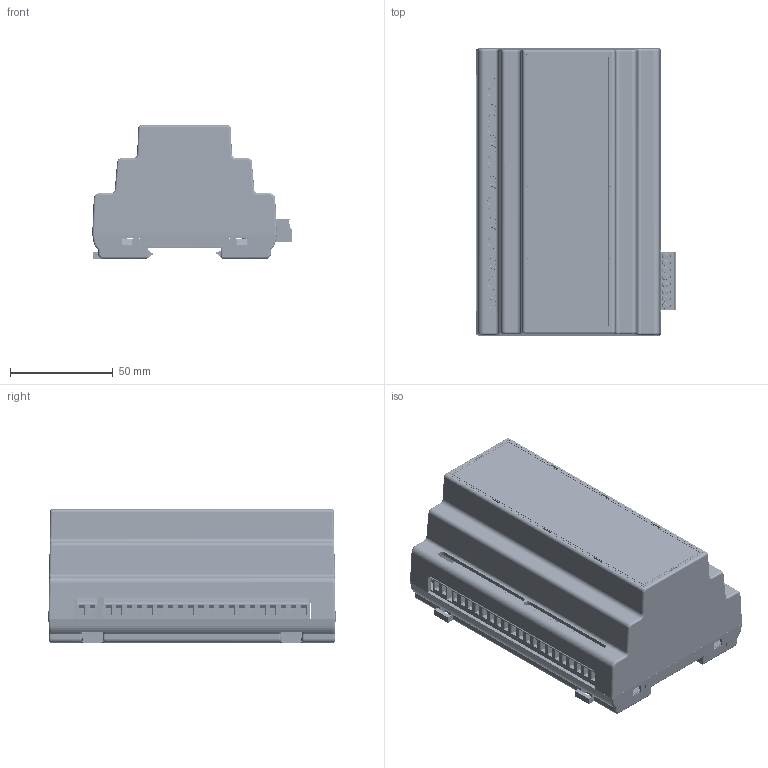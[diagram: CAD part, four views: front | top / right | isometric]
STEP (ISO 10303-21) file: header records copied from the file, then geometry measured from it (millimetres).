
FILE_DESCRIPTION(/* description */ ('','CAx-IF Rec.Pracs.---Representation and Presentation of Product Manufacturing Information (PMI)---3.8---2014-02-18'),/* implementation_level */ '2;1');
FILE_NAME(/* name */ 'C:\Users\user\Desktop\OP-1017 (PS-08m).stp',/* time_stamp */ '2024-08-29T13:58:39+02:00',/* author */ ('user'),/* organization */ (''),/* preprocessor_version */ 'ST-DEVELOPER v16.13',/* originating_system */ 'Autodesk Inventor 2018',/* authorisation */ '');
FILE_SCHEMA (('AP242_MANAGED_MODEL_BASED_3D_ENGINEERING_MIM_LF { 1 0 10303 442 1 1 4 }'));
Products named in the file (40): OP-1017backup; OP-1017_A; OP-1017_B_3; OP-1017_D; NAK_1017_D; OP-267-D; S_023.05.000.00064 /...63; ST-1007_2_0_E; PCB Component; Board; SOD80C; SOT23@1; R0805; C1206; E5-10,5; VP31; B_SMD_WA; TE5; FIDUCIAL_G10; ANGLE-SW1-16_1; HF46F; TO252; 317TS; 1X12; SOT23; 140CLH-1010; Skręcana łączka_1pin; 15EDG-3.5-8P(H-Vwt); 15EDGRC-3.5; 15EDGRC-3.5_1; 15EDGRC-3.5-thickening; 15EDGRC-3.5-PIN; 15EDGK-3.5; 15EDGK-3.5_1; 15EDGK-3.5_top-cap; 15EDGK-3.5_spring; 15EDGK-3.5_screw; 15EDGK-3.5_klamper; Dystans M3-01; PS-08m230 naklejka
Assembly tree (137 placements, depth 6):
  OP-1017backup
    OP-1017_A
    OP-1017_B_3
    OP-1017_D
    NAK_1017_D
    OP-267-D  x2
    S_023.05.000.00064 /...63  x4
    ST-1007_2_0_E
      PCB Component
        Board
        SOD80C  x8
        SOT23@1  x8
        R0805  x8
        C1206  x2
        E5-10,5  x2
        VP31
        B_SMD_WA
        TE5  x2
        FIDUCIAL_G10  x6
        ANGLE-SW1-16_1  x6
        HF46F  x8
        TO252
        317TS
        1X12
        SOT23
        140CLH-1010  x4
        Skręcana łączka_1pin  x22
        15EDG-3.5-8P(H-Vwt)
          15EDGRC-3.5
            15EDGRC-3.5_1
            15EDGRC-3.5-PIN  x8
            15EDGRC-3.5-thickening  x2
          15EDGK-3.5
            15EDGK-3.5_klamper  x8
            15EDGK-3.5_screw  x8
            15EDGK-3.5_spring  x8
            15EDGK-3.5_1
            15EDGK-3.5_top-cap
    Dystans M3-01
    PS-08m230 naklejka
Bounding box: 97.3 x 140 x 65 mm (x, y, z)
Volume: 136575.8 mm3; surface area: 187547.9 mm2
Topology: 176 solids, 176 shells, 7629 faces, 20333 edges, 13370 vertices
Faces by surface type: plane 5500, cylinder 1050, bspline 864, cone 145, torus 62, sphere 8
Full cylindrical faces by diameter (mm): 0.5 x62, 0.6 x64, 0.9 x16, 1 x44, 1.016 x16, 1.1 x3, 1.2 x24, 1.3 x8, 1.321 x4, 1.5 x8, 1.6 x11, 1.8 x16, 2 x16, 2.78 x8, 2.8 x8, 2.9 x4, 3 x7, 3.2 x2, 3.5 x15, 3.7 x22, 4 x22, 10 x8
Entity records: 171659 total; most frequent: CARTESIAN_POINT 48008, ORIENTED_EDGE 24872, DIRECTION 22849, EDGE_CURVE 12436, LINE 9335, VECTOR 9335, VERTEX_POINT 8408, AXIS2_PLACEMENT_3D 6885
